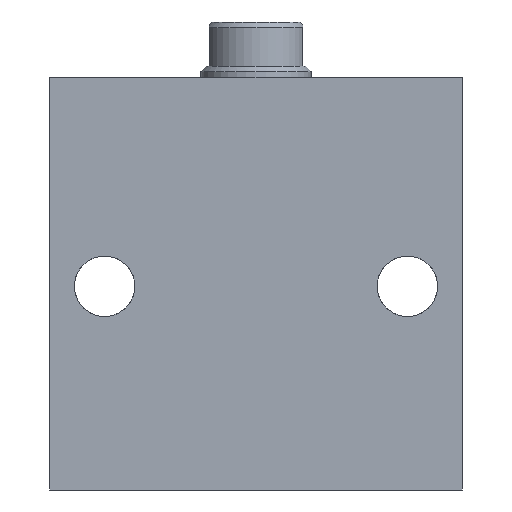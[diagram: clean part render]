
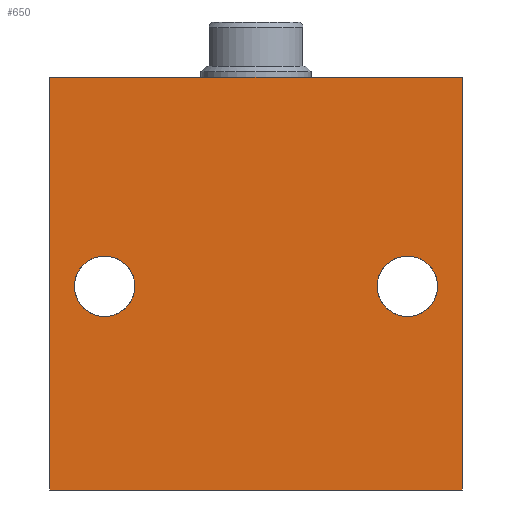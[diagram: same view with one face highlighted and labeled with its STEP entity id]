
A CAD part, front view. The second image highlights one B-rep face of the part: STEP entity #650.
In plain terms, the highlighted planar face has unit normal (0, -1, 0).
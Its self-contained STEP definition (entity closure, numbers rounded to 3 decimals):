
#19 = EDGE_CURVE ( 'NONE', #2424, #2328, #2286, .T. ) ;
#158 = EDGE_LOOP ( 'NONE', ( #314, #313, #312, #311 ) ) ;
#311 = ORIENTED_EDGE ( 'NONE', *, *, #1479, .T. ) ;
#312 = ORIENTED_EDGE ( 'NONE', *, *, #1474, .F. ) ;
#313 = ORIENTED_EDGE ( 'NONE', *, *, #1349, .F. ) ;
#314 = ORIENTED_EDGE ( 'NONE', *, *, #1475, .T. ) ;
#315 = ORIENTED_EDGE ( 'NONE', *, *, #19, .T. ) ;
#316 = ORIENTED_EDGE ( 'NONE', *, *, #1482, .T. ) ;
#317 = ORIENTED_EDGE ( 'NONE', *, *, #1486, .T. ) ;
#318 = ORIENTED_EDGE ( 'NONE', *, *, #1476, .T. ) ;
#449 = VERTEX_POINT ( 'NONE', #843 ) ;
#650 = ADVANCED_FACE ( 'NONE', ( #2120, #2116, #2119 ), #750, .F. ) ;
#746 = DIRECTION ( 'NONE',  ( 0., 0., 1. ) ) ;
#750 = PLANE ( 'NONE',  #1378 ) ;
#752 = CARTESIAN_POINT ( 'NONE',  ( -37.5, -27.5, 75. ) ) ;
#757 = DIRECTION ( 'NONE',  ( 0., 1., 0. ) ) ;
#843 = CARTESIAN_POINT ( 'NONE',  ( -27.5, -27.5, 31.5 ) ) ;
#1042 = DIRECTION ( 'NONE',  ( 0., 0., 1. ) ) ;
#1045 = CARTESIAN_POINT ( 'NONE',  ( 27.5, -27.5, 37. ) ) ;
#1051 = DIRECTION ( 'NONE',  ( 0., 1., 0. ) ) ;
#1137 = CARTESIAN_POINT ( 'NONE',  ( -27.5, -27.5, 42.5 ) ) ;
#1236 = CARTESIAN_POINT ( 'NONE',  ( 27.5, -27.5, 31.5 ) ) ;
#1268 = CARTESIAN_POINT ( 'NONE',  ( -37.5, -27.5, 75. ) ) ;
#1270 = CARTESIAN_POINT ( 'NONE',  ( 27.5, -27.5, 42.5 ) ) ;
#1272 = CARTESIAN_POINT ( 'NONE',  ( -37.5, -27.5, 0. ) ) ;
#1273 = CARTESIAN_POINT ( 'NONE',  ( 37.5, -27.5, 75. ) ) ;
#1274 = CARTESIAN_POINT ( 'NONE',  ( 37.5, -27.5, 0. ) ) ;
#1349 = EDGE_CURVE ( 'NONE', #2392, #2391, #2655, .T. ) ;
#1378 = AXIS2_PLACEMENT_3D ( 'NONE', #752, #757, #746 ) ;
#1474 = EDGE_CURVE ( 'NONE', #2395, #2392, #2522, .T. ) ;
#1475 = EDGE_CURVE ( 'NONE', #2393, #2391, #2521, .T. ) ;
#1476 = EDGE_CURVE ( 'NONE', #2339, #449, #2524, .T. ) ;
#1479 = EDGE_CURVE ( 'NONE', #2395, #2393, #2538, .T. ) ;
#1482 = EDGE_CURVE ( 'NONE', #2328, #2424, #2570, .T. ) ;
#1483 = AXIS2_PLACEMENT_3D ( 'NONE', #1045, #1051, #1042 ) ;
#1486 = EDGE_CURVE ( 'NONE', #449, #2339, #2566, .T. ) ;
#1522 = DIRECTION ( 'NONE',  ( 0., 0., 1. ) ) ;
#1525 = DIRECTION ( 'NONE',  ( 0., 1., 0. ) ) ;
#1527 = CARTESIAN_POINT ( 'NONE',  ( -27.5, -27.5, 37. ) ) ;
#1538 = DIRECTION ( 'NONE',  ( 0., 0., 1. ) ) ;
#1539 = DIRECTION ( 'NONE',  ( 0., 1., 0. ) ) ;
#1540 = CARTESIAN_POINT ( 'NONE',  ( 27.5, -27.5, 37. ) ) ;
#1552 = DIRECTION ( 'NONE',  ( 0., 0., -1. ) ) ;
#1553 = CARTESIAN_POINT ( 'NONE',  ( -37.5, -27.5, 75. ) ) ;
#1557 = DIRECTION ( 'NONE',  ( 0., 0., 1. ) ) ;
#1560 = DIRECTION ( 'NONE',  ( 0., 1., 0. ) ) ;
#1561 = CARTESIAN_POINT ( 'NONE',  ( -27.5, -27.5, 37. ) ) ;
#1564 = DIRECTION ( 'NONE',  ( 1., 0., 0. ) ) ;
#1567 = CARTESIAN_POINT ( 'NONE',  ( -37.5, -27.5, 0. ) ) ;
#1574 = CARTESIAN_POINT ( 'NONE',  ( -37.5, -27.5, 75. ) ) ;
#1580 = DIRECTION ( 'NONE',  ( 1., 0., 0. ) ) ;
#1624 = DIRECTION ( 'NONE',  ( 0., 0., -1. ) ) ;
#1664 = CARTESIAN_POINT ( 'NONE',  ( 37.5, -27.5, 75. ) ) ;
#1974 = AXIS2_PLACEMENT_3D ( 'NONE', #1527, #1525, #1522 ) ;
#1976 = AXIS2_PLACEMENT_3D ( 'NONE', #1540, #1539, #1538 ) ;
#1978 = AXIS2_PLACEMENT_3D ( 'NONE', #1561, #1560, #1557 ) ;
#2116 = FACE_BOUND ( 'NONE', #2493, .T. ) ;
#2119 = FACE_OUTER_BOUND ( 'NONE', #158, .T. ) ;
#2120 = FACE_BOUND ( 'NONE', #2491, .T. ) ;
#2286 = CIRCLE ( 'NONE', #1483, 5.5 ) ;
#2328 = VERTEX_POINT ( 'NONE', #1270 ) ;
#2339 = VERTEX_POINT ( 'NONE', #1137 ) ;
#2391 = VERTEX_POINT ( 'NONE', #1274 ) ;
#2392 = VERTEX_POINT ( 'NONE', #1273 ) ;
#2393 = VERTEX_POINT ( 'NONE', #1272 ) ;
#2395 = VERTEX_POINT ( 'NONE', #1268 ) ;
#2424 = VERTEX_POINT ( 'NONE', #1236 ) ;
#2491 = EDGE_LOOP ( 'NONE', ( #318, #317 ) ) ;
#2493 = EDGE_LOOP ( 'NONE', ( #316, #315 ) ) ;
#2520 = VECTOR ( 'NONE', #1580, 1000. ) ;
#2521 = LINE ( 'NONE', #1567, #2564 ) ;
#2522 = LINE ( 'NONE', #1574, #2520 ) ;
#2524 = CIRCLE ( 'NONE', #1978, 5.5 ) ;
#2538 = LINE ( 'NONE', #1553, #2574 ) ;
#2564 = VECTOR ( 'NONE', #1564, 1000. ) ;
#2566 = CIRCLE ( 'NONE', #1974, 5.5 ) ;
#2570 = CIRCLE ( 'NONE', #1976, 5.5 ) ;
#2574 = VECTOR ( 'NONE', #1552, 1000. ) ;
#2653 = VECTOR ( 'NONE', #1624, 1000. ) ;
#2655 = LINE ( 'NONE', #1664, #2653 ) ;
